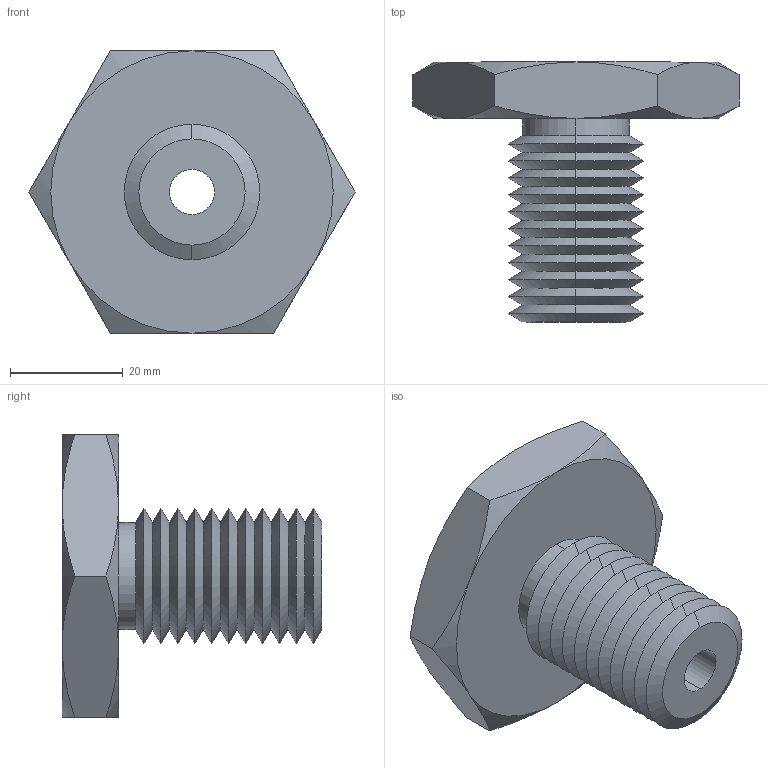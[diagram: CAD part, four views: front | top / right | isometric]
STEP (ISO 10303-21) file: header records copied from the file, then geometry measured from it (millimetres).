
FILE_DESCRIPTION (( 'STEP AP203' ), '1' );
FILE_NAME ('63302.W0024_M8x1,25.step', '2013-12-08T11:02:15', ( 'User' ), ( '' ), 'SwSTEP 2.0', 'SolidWorks 2009', '' );
FILE_SCHEMA (( 'CONFIG_CONTROL_DESIGN' ));
Length unit declared in the file: millimetre
Products named in the file (1): 63302.W0024_M8x1,25
Bounding box: 57.73 x 46 x 50 mm (x, y, z)
Volume: 31808.2 mm3; surface area: 11513.2 mm2
Topology: 1 solids, 1 shells, 71 faces, 146 edges, 78 vertices
Faces by surface type: cone 58, plane 9, cylinder 4
Entity records: 2039 total; most frequent: CARTESIAN_POINT 480, DIRECTION 332, ORIENTED_EDGE 292, EDGE_CURVE 146, AXIS2_PLACEMENT_3D 138, VERTEX_POINT 78, EDGE_LOOP 74, ADVANCED_FACE 71
